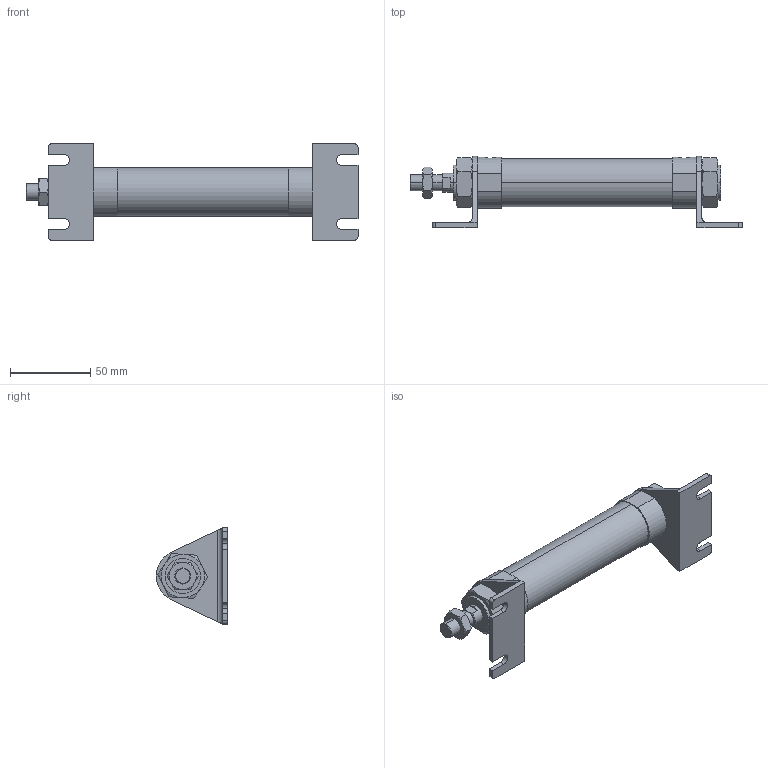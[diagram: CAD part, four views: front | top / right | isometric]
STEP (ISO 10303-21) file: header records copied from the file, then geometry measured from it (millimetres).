
FILE_DESCRIPTION (( 'STEP AP203' ), '1' );
FILE_NAME ('J#2-25-75-L.STEP', '2016-03-10T00:54:10', ( '' ), ( '' ), 'SwSTEP 2.0', 'SolidWorks 2014', '' );
FILE_SCHEMA (( 'CONFIG_CONTROL_DESIGN' ));
Length unit declared in the file: millimetre
Products named in the file (5): J#2-25-75; J#2-25-75-L; J#2-25-L
Assembly tree (6 placements, depth 2):
  J#2-25-75-L
    J#2-25-75
    (unnamed)
    (unnamed)  x2
    J#2-25-L  x2
Bounding box: 207.2 x 44.5 x 60 mm (x, y, z)
Volume: 135518.8 mm3; surface area: 37148.7 mm2
Topology: 6 solids, 6 shells, 171 faces, 402 edges, 246 vertices
Faces by surface type: plane 75, cylinder 50, torus 36, cone 10
Entity records: 4351 total; most frequent: CARTESIAN_POINT 1030, DIRECTION 588, ORIENTED_EDGE 560, EDGE_CURVE 280, AXIS2_PLACEMENT_3D 234, VERTEX_POINT 172, EDGE_LOOP 136, ADVANCED_FACE 123
